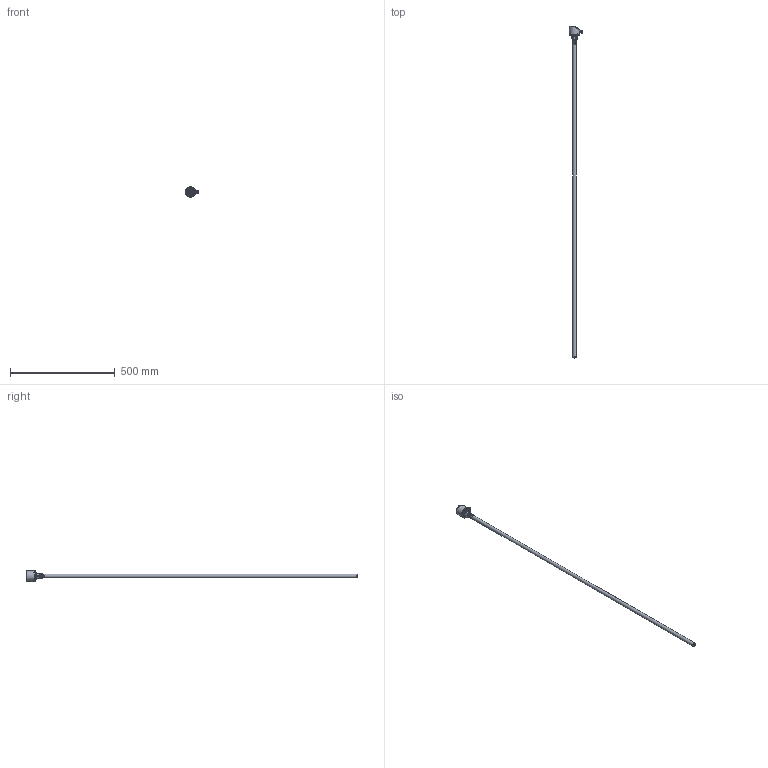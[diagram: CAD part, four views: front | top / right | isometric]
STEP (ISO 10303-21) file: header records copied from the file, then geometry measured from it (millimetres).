
FILE_DESCRIPTION (( 'STEP AP214' ), '1' );
FILE_NAME ('1-2数显电容-1500（同轴）.STEP', '2025-03-11T05:51:05', ( '' ), ( '' ), 'SwSTEP 2.0', 'SolidWorks 2020', '' );
FILE_SCHEMA (( 'AUTOMOTIVE_DESIGN' ));
Length unit declared in the file: millimetre
Products named in the file (9): 抻芛ㄗ蟀哿講ㄘ; 揤薯奻裔; 揤薯珆尨欶; PVC躇猾菜; 肮粣奪; 滅阨諉芛褲极1; 1-2数显电容-1500（同轴）; 偌瑩簽; 恦謫抻芛5
Assembly tree (10 placements, depth 2):
  1-2数显电容-1500（同轴）
    揤薯奻裔
    揤薯珆尨欶
    滅阨諉芛褲极1
    偌瑩簽  x3
    PVC躇猾菜
    恦謫抻芛5
    抻芛ㄗ蟀哿講ㄘ
    肮粣奪
Bounding box: 64 x 1586.5 x 50 mm (x, y, z)
Volume: 224417.7 mm3; surface area: 239870.6 mm2
Topology: 10 solids, 10 shells, 306 faces, 720 edges, 466 vertices
Faces by surface type: plane 126, cylinder 115, cone 39, bspline 11, torus 11, sphere 4
Full cylindrical faces by diameter (mm): 1 x4, 1.2 x3, 1.8 x1, 2 x3, 2.5 x4, 2.8 x1, 4.3 x3, 4.5 x6, 5 x8, 6 x1, 7.2 x1, 8 x1, 8.5 x1, 9.75 x1, 10 x1, 10.49 x1, 10.5 x1, 10.8 x1, 10.9 x1, 11 x2, 12 x1, 16 x1, 18 x1, 18.5 x1, 21 x1, 29.24 x1, 35 x1, 43.9 x1, 45.4 x1, 45.6 x2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
Entity records: 13745 total; most frequent: CARTESIAN_POINT 7166, DIRECTION 1284, ORIENTED_EDGE 1072, EDGE_CURVE 536, AXIS2_PLACEMENT_3D 523, EDGE_LOOP 458, VERTEX_POINT 398, FACE_OUTER_BOUND 344
